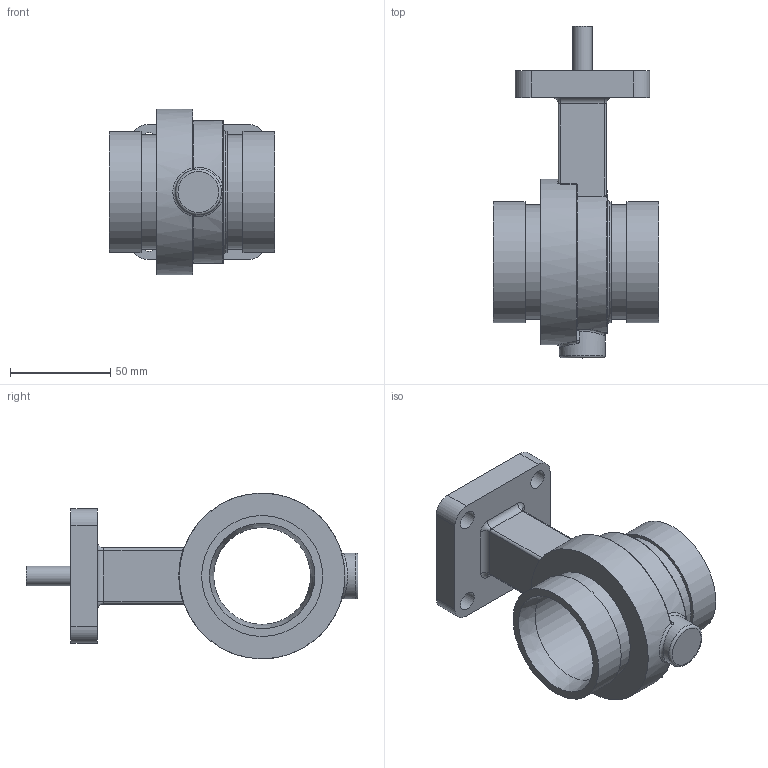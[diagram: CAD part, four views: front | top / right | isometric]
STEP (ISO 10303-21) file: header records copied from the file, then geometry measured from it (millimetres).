
FILE_DESCRIPTION(/* description */ ('Vic Series 461 Vic-300 MasterSeal SS Butterfly Valve','CAx-IF Rec.Pracs.---Representation and Presentation of Product Manufacturing Information (PMI)---4.0---2014-10-13'),/* implementation_level */ '2;1');
FILE_NAME(/* name */ 'C:\Users\kkamble\AppData\Roaming\Autodesk\ApplicationPlugins\Back Up\Victaulic_SS-OGS_Valve Butterfly Vic-300 Masterseal Bare_Series 461 (OGS)\Victaulic_SS-OGS_Valve Butterfly Vic-300 Masterseal Bare_Series 461 (OGS)_2 (50).stp',/* time_stamp */ '2020-09-02T14:48:07+05:00',/* author */ ('mchristi'),/* organization */ ('Victaulic'),/* preprocessor_version */ 'ST-DEVELOPER v17.2',/* originating_system */ 'Autodesk Inventor 2019',/* authorisation */ '');
FILE_SCHEMA (('AP242_MANAGED_MODEL_BASED_3D_ENGINEERING_MIM_LF { 1 0 10303 442 1 1 4 }'));
Length unit declared in the file: inch
Products named in the file (1): 461-02.0
Bounding box: 82.55 x 165.35 x 82.55 mm (x, y, z)
Volume: 222591.7 mm3; surface area: 55474.5 mm2
Topology: 1 solids, 1 shells, 94 faces, 227 edges, 141 vertices
Faces by surface type: cylinder 36, plane 22, bspline 18, torus 14, sphere 2, cone 2
Full cylindrical faces by diameter (mm): 9.652 x5, 22.86 x1, 48.26 x1, 54.102 x1, 57.15 x2, 60.325 x3, 82.55 x1
Entity records: 3534 total; most frequent: CARTESIAN_POINT 1133, DIRECTION 491, ORIENTED_EDGE 452, EDGE_CURVE 226, AXIS2_PLACEMENT_3D 213, VERTEX_POINT 142, CIRCLE 123, EDGE_LOOP 112
